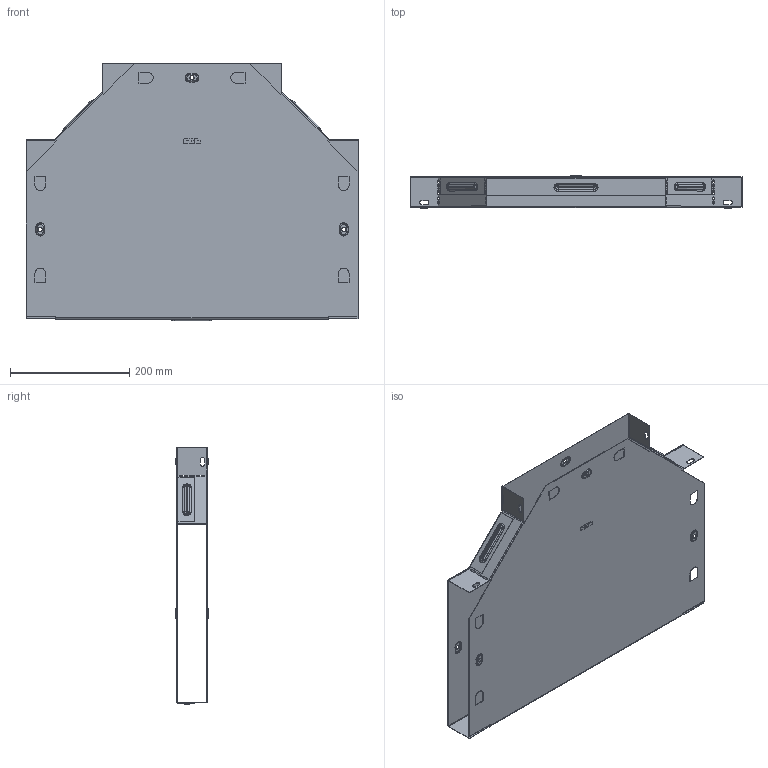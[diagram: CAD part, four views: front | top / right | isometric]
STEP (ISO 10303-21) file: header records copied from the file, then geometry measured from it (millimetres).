
FILE_DESCRIPTION (( 'STEP AP214' ), '1' );
FILE_NAME ('t5030008_捘.STEP', '2019-06-10T08:13:08', ( '砐錪賧瘔蠈錪 Windows' ), ( '' ), 'SwSTEP 2.0', 'SolidWorks 2018', '' );
FILE_SCHEMA (( 'AUTOMOTIVE_DESIGN' ));
Length unit declared in the file: millimetre
Products named in the file (1): t5030008_捘
Bounding box: 556.4 x 53.8 x 431 mm (x, y, z)
Volume: 384542.4 mm3; surface area: 966167.1 mm2
Topology: 2 solids, 2 shells, 652 faces, 1800 edges, 1164 vertices
Faces by surface type: plane 352, cylinder 186, torus 96, bspline 18
Entity records: 21837 total; most frequent: CARTESIAN_POINT 4697, ORIENTED_EDGE 3600, DIRECTION 3550, EDGE_CURVE 1800, LINE 1248, VECTOR 1248, VERTEX_POINT 1164, AXIS2_PLACEMENT_3D 1151
